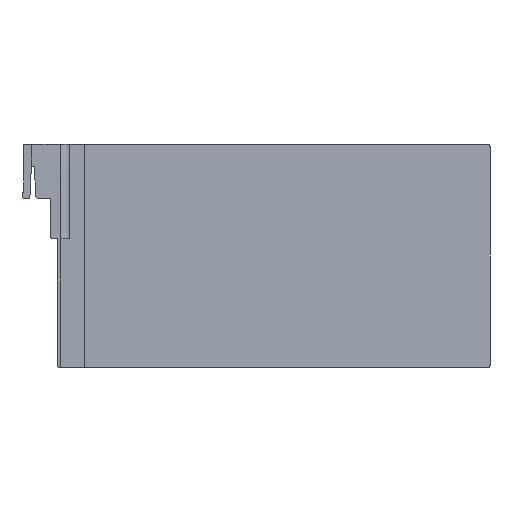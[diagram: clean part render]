
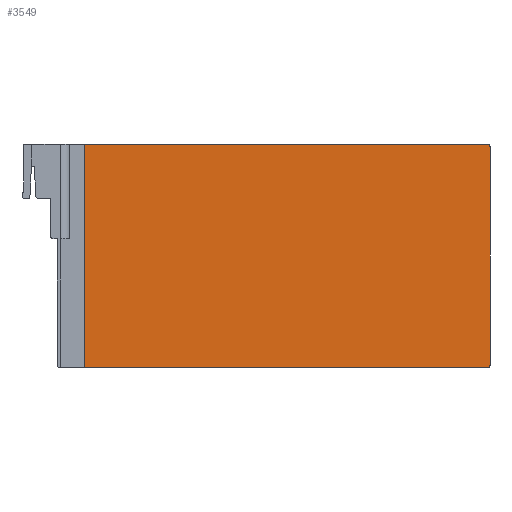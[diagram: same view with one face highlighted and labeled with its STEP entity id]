
A CAD part, left-side view. The second image highlights one B-rep face of the part: STEP entity #3549.
In plain terms, the highlighted planar face has unit normal (-1, 0, 0).
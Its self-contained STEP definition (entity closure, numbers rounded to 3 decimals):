
#56 = VECTOR ( 'NONE', #3442, 1000. ) ;
#170 = VERTEX_POINT ( 'NONE', #4014 ) ;
#296 = CARTESIAN_POINT ( 'NONE',  ( -36.25, -239.35, 11.95 ) ) ;
#354 = VERTEX_POINT ( 'NONE', #1138 ) ;
#547 = ORIENTED_EDGE ( 'NONE', *, *, #1929, .T. ) ;
#620 = CARTESIAN_POINT ( 'NONE',  ( -36.25, -439.35, -97.05 ) ) ;
#662 = CARTESIAN_POINT ( 'NONE',  ( -36.25, -438.35, -98.05 ) ) ;
#735 = ORIENTED_EDGE ( 'NONE', *, *, #1787, .T. ) ;
#902 = DIRECTION ( 'NONE',  ( 0., 0., 1. ) ) ;
#995 = LINE ( 'NONE', #1105, #2152 ) ;
#1074 = DIRECTION ( 'NONE',  ( 0., -1., 0. ) ) ;
#1105 = CARTESIAN_POINT ( 'NONE',  ( -36.25, -439.35, 11.95 ) ) ;
#1138 = CARTESIAN_POINT ( 'NONE',  ( -36.25, -239.35, 11.95 ) ) ;
#1211 = LINE ( 'NONE', #296, #2646 ) ;
#1348 = EDGE_CURVE ( 'NONE', #170, #3867, #1861, .T. ) ;
#1444 = DIRECTION ( 'NONE',  ( -1., 0., 0. ) ) ;
#1578 = AXIS2_PLACEMENT_3D ( 'NONE', #2129, #1444, #2096 ) ;
#1771 = CARTESIAN_POINT ( 'NONE',  ( -36.25, -439.35, 10.95 ) ) ;
#1787 = EDGE_CURVE ( 'NONE', #1896, #4025, #1848, .T. ) ;
#1810 = ORIENTED_EDGE ( 'NONE', *, *, #2624, .T. ) ;
#1848 = LINE ( 'NONE', #2474, #2217 ) ;
#1861 = LINE ( 'NONE', #4128, #56 ) ;
#1896 = VERTEX_POINT ( 'NONE', #620 ) ;
#1929 = EDGE_CURVE ( 'NONE', #354, #170, #1211, .T. ) ;
#2096 = DIRECTION ( 'NONE',  ( 0., -1., 0. ) ) ;
#2129 = CARTESIAN_POINT ( 'NONE',  ( -36.25, -438.35, -97.05 ) ) ;
#2152 = VECTOR ( 'NONE', #2796, 1000. ) ;
#2213 = EDGE_CURVE ( 'NONE', #3853, #354, #995, .T. ) ;
#2217 = VECTOR ( 'NONE', #902, 1000. ) ;
#2283 = CIRCLE ( 'NONE', #2972, 1. ) ;
#2335 = AXIS2_PLACEMENT_3D ( 'NONE', #3369, #3721, #1074 ) ;
#2463 = ORIENTED_EDGE ( 'NONE', *, *, #1348, .T. ) ;
#2470 = DIRECTION ( 'NONE',  ( 0., -1., 0. ) ) ;
#2474 = CARTESIAN_POINT ( 'NONE',  ( -36.25, -439.35, 11.95 ) ) ;
#2506 = ORIENTED_EDGE ( 'NONE', *, *, #4106, .T. ) ;
#2524 = EDGE_LOOP ( 'NONE', ( #735, #2506, #3858, #547, #2463, #1810 ) ) ;
#2624 = EDGE_CURVE ( 'NONE', #3867, #1896, #3805, .T. ) ;
#2646 = VECTOR ( 'NONE', #3297, 1000. ) ;
#2681 = FACE_OUTER_BOUND ( 'NONE', #2524, .T. ) ;
#2705 = CARTESIAN_POINT ( 'NONE',  ( -36.25, -438.35, 11.95 ) ) ;
#2789 = CARTESIAN_POINT ( 'NONE',  ( -36.25, -438.35, 10.95 ) ) ;
#2796 = DIRECTION ( 'NONE',  ( 0., 1., 0. ) ) ;
#2826 = DIRECTION ( 'NONE',  ( -1., 0., 0. ) ) ;
#2972 = AXIS2_PLACEMENT_3D ( 'NONE', #2789, #2826, #2470 ) ;
#3297 = DIRECTION ( 'NONE',  ( 0., 0., -1. ) ) ;
#3369 = CARTESIAN_POINT ( 'NONE',  ( -36.25, -439.35, -98.05 ) ) ;
#3442 = DIRECTION ( 'NONE',  ( 0., -1., 0. ) ) ;
#3549 = ADVANCED_FACE ( 'NONE', ( #2681 ), #4391, .F. ) ;
#3721 = DIRECTION ( 'NONE',  ( 1., 0., 0. ) ) ;
#3805 = CIRCLE ( 'NONE', #1578, 1. ) ;
#3853 = VERTEX_POINT ( 'NONE', #2705 ) ;
#3858 = ORIENTED_EDGE ( 'NONE', *, *, #2213, .T. ) ;
#3867 = VERTEX_POINT ( 'NONE', #662 ) ;
#4014 = CARTESIAN_POINT ( 'NONE',  ( -36.25, -239.35, -98.05 ) ) ;
#4025 = VERTEX_POINT ( 'NONE', #1771 ) ;
#4106 = EDGE_CURVE ( 'NONE', #4025, #3853, #2283, .T. ) ;
#4128 = CARTESIAN_POINT ( 'NONE',  ( -36.25, -439.35, -98.05 ) ) ;
#4391 = PLANE ( 'NONE',  #2335 ) ;
